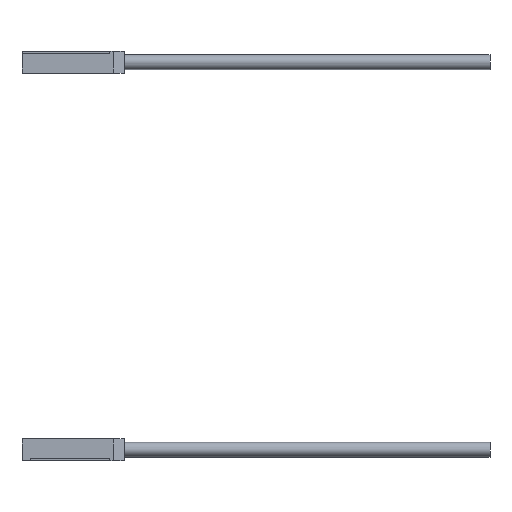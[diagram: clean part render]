
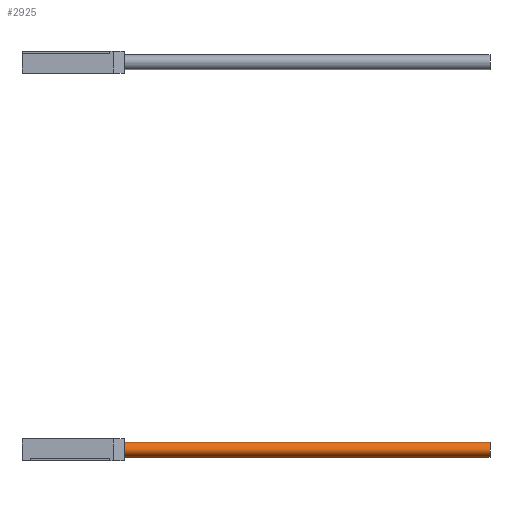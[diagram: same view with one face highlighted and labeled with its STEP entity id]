
A CAD part, left-side view. The second image highlights one B-rep face of the part: STEP entity #2925.
In plain terms, the highlighted cylindrical face has radius 1 mm (diameter 2 mm), a partial arc.
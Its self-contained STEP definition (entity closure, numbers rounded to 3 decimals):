
#125 = ORIENTED_EDGE ( 'NONE', *, *, #508, .F. ) ;
#277 = EDGE_CURVE ( 'NONE', #512, #500, #1382, .T. ) ;
#300 = ORIENTED_EDGE ( 'NONE', *, *, #277, .T. ) ;
#497 = EDGE_CURVE ( 'NONE', #502, #512, #1731, .T. ) ;
#499 = VERTEX_POINT ( 'NONE', #1781 ) ;
#500 = VERTEX_POINT ( 'NONE', #1775 ) ;
#502 = VERTEX_POINT ( 'NONE', #1778 ) ;
#508 = EDGE_CURVE ( 'NONE', #499, #500, #1771, .T. ) ;
#512 = VERTEX_POINT ( 'NONE', #1755 ) ;
#1376 = DIRECTION ( 'NONE',  ( 0., 0., -1. ) ) ;
#1377 = DIRECTION ( 'NONE',  ( 0., -1., 0. ) ) ;
#1378 = CARTESIAN_POINT ( 'NONE',  ( 0.375, -8., -1.5 ) ) ;
#1379 = AXIS2_PLACEMENT_3D ( 'NONE', #1378, #1377, #1376 ) ;
#1382 = CIRCLE ( 'NONE', #1379, 1. ) ;
#1730 = CARTESIAN_POINT ( 'NONE',  ( 0.375, -58., -0.5 ) ) ;
#1731 = LINE ( 'NONE', #1730, #1782 ) ;
#1755 = CARTESIAN_POINT ( 'NONE',  ( 0.375, -8., -0.5 ) ) ;
#1767 = DIRECTION ( 'NONE',  ( 0., 1., 0. ) ) ;
#1768 = VECTOR ( 'NONE', #1767, 1000. ) ;
#1769 = CARTESIAN_POINT ( 'NONE',  ( 0.375, -58., -2.5 ) ) ;
#1771 = LINE ( 'NONE', #1769, #1768 ) ;
#1774 = DIRECTION ( 'NONE',  ( 0., 1., 0. ) ) ;
#1775 = CARTESIAN_POINT ( 'NONE',  ( 0.375, -8., -2.5 ) ) ;
#1778 = CARTESIAN_POINT ( 'NONE',  ( 0.375, -58., -0.5 ) ) ;
#1781 = CARTESIAN_POINT ( 'NONE',  ( 0.375, -58., -2.5 ) ) ;
#1782 = VECTOR ( 'NONE', #1774, 1000. ) ;
#2421 = CIRCLE ( 'NONE', #2471, 1. ) ;
#2439 = FACE_OUTER_BOUND ( 'NONE', #2921, .T. ) ;
#2468 = DIRECTION ( 'NONE',  ( 0., 0., -1. ) ) ;
#2469 = DIRECTION ( 'NONE',  ( 0., -1., 0. ) ) ;
#2470 = CARTESIAN_POINT ( 'NONE',  ( 0.375, -58., -1.5 ) ) ;
#2471 = AXIS2_PLACEMENT_3D ( 'NONE', #2470, #2469, #2468 ) ;
#2474 = DIRECTION ( 'NONE',  ( 0., 0., 1. ) ) ;
#2475 = DIRECTION ( 'NONE',  ( 0., 1., 0. ) ) ;
#2476 = CARTESIAN_POINT ( 'NONE',  ( 0.375, -58., -1.5 ) ) ;
#2477 = AXIS2_PLACEMENT_3D ( 'NONE', #2476, #2475, #2474 ) ;
#2479 = CYLINDRICAL_SURFACE ( 'NONE', #2477, 1. ) ;
#2918 = ORIENTED_EDGE ( 'NONE', *, *, #497, .T. ) ;
#2921 = EDGE_LOOP ( 'NONE', ( #125, #2924, #2918, #300 ) ) ;
#2924 = ORIENTED_EDGE ( 'NONE', *, *, #2928, .F. ) ;
#2925 = ADVANCED_FACE ( 'NONE', ( #2439 ), #2479, .T. ) ;
#2928 = EDGE_CURVE ( 'NONE', #502, #499, #2421, .T. ) ;
